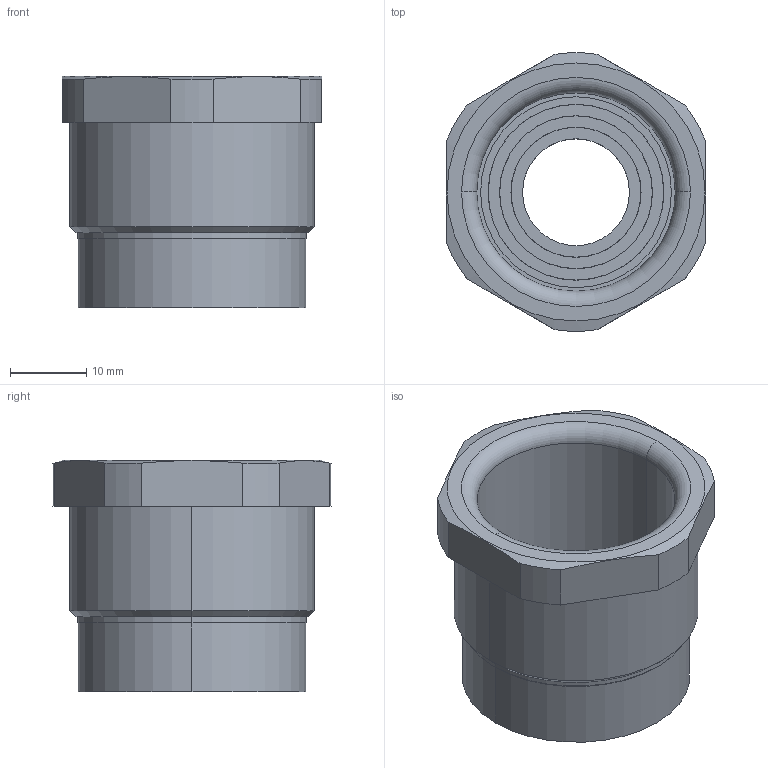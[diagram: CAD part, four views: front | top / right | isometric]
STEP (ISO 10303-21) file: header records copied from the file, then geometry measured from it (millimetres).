
FILE_DESCRIPTION (( 'STEP AP203' ), '1' );
FILE_NAME ('8M32PAUG.STEP', '2006-07-28T10:46:17', ( ' ' ), ( '' ), 'SwSTEP 2.0', 'SolidWorks 2005278', '' );
FILE_SCHEMA (( 'CONFIG_CONTROL_DESIGN' ));
Length unit declared in the file: millimetre
Products named in the file (1): 8M32PAUG
Bounding box: 34 x 36.45 x 30.3 mm (x, y, z)
Volume: 11571.4 mm3; surface area: 9724.4 mm2
Topology: 1 solids, 1 shells, 92 faces, 224 edges, 148 vertices
Faces by surface type: plane 56, cylinder 30, cone 4, torus 2
Entity records: 2797 total; most frequent: CARTESIAN_POINT 493, DIRECTION 470, ORIENTED_EDGE 448, EDGE_CURVE 224, AXIS2_PLACEMENT_3D 161, VERTEX_POINT 148, LINE 148, VECTOR 148
